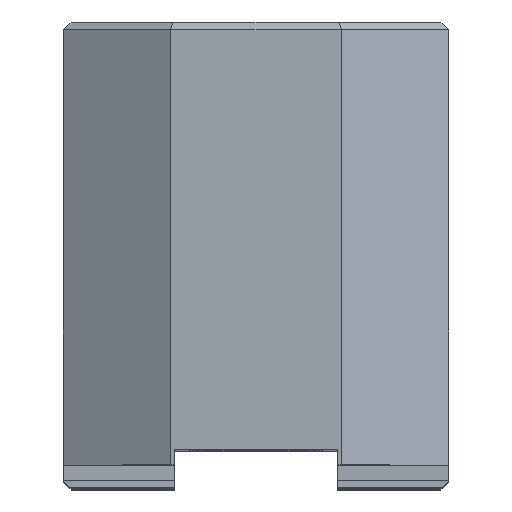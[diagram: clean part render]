
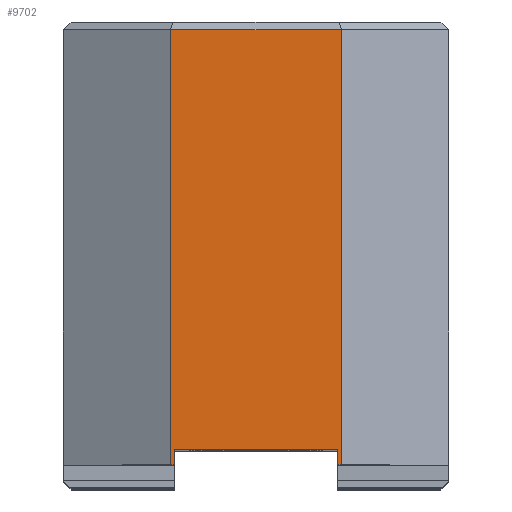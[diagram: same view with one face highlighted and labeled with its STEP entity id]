
A CAD part, top view. The second image highlights one B-rep face of the part: STEP entity #9702.
In plain terms, the highlighted planar face has unit normal (0, 0, 1).
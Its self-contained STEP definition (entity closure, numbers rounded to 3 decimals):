
#46=FACE_OUTER_BOUND('',#618,.T.);
#618=EDGE_LOOP('',(#6588,#6589,#6590,#6591,#6592,#6593,#6594,#6595));
#1196=LINE('',#13472,#2606);
#1201=LINE('',#13483,#2611);
#1207=LINE('',#13495,#2617);
#1413=LINE('',#13906,#2823);
#1485=LINE('',#14051,#2895);
#1486=LINE('',#14052,#2896);
#1487=LINE('',#14054,#2897);
#1488=LINE('',#14055,#2898);
#2606=VECTOR('',#10887,10.);
#2611=VECTOR('',#10894,10.);
#2617=VECTOR('',#10904,10.);
#2823=VECTOR('',#11112,10.);
#2895=VECTOR('',#11188,10.);
#2896=VECTOR('',#11189,10.);
#2897=VECTOR('',#11190,10.);
#2898=VECTOR('',#11191,10.);
#4015=VERTEX_POINT('',#13469);
#4016=VERTEX_POINT('',#13471);
#4020=VERTEX_POINT('',#13480);
#4021=VERTEX_POINT('',#13482);
#4025=VERTEX_POINT('',#13494);
#4229=VERTEX_POINT('',#13904);
#4300=VERTEX_POINT('',#14050);
#4301=VERTEX_POINT('',#14053);
#4870=EDGE_CURVE('',#4016,#4015,#1196,.T.);
#4875=EDGE_CURVE('',#4021,#4020,#1201,.T.);
#4881=EDGE_CURVE('',#4021,#4025,#1207,.T.);
#5087=EDGE_CURVE('',#4020,#4229,#1413,.T.);
#5159=EDGE_CURVE('',#4229,#4300,#1485,.T.);
#5160=EDGE_CURVE('',#4300,#4016,#1486,.T.);
#5161=EDGE_CURVE('',#4015,#4301,#1487,.T.);
#5162=EDGE_CURVE('',#4025,#4301,#1488,.T.);
#6588=ORIENTED_EDGE('',*,*,#4875,.T.);
#6589=ORIENTED_EDGE('',*,*,#5087,.T.);
#6590=ORIENTED_EDGE('',*,*,#5159,.T.);
#6591=ORIENTED_EDGE('',*,*,#5160,.T.);
#6592=ORIENTED_EDGE('',*,*,#4870,.T.);
#6593=ORIENTED_EDGE('',*,*,#5161,.T.);
#6594=ORIENTED_EDGE('',*,*,#5162,.F.);
#6595=ORIENTED_EDGE('',*,*,#4881,.F.);
#9136=PLANE('',#10297);
#9702=ADVANCED_FACE('',(#46),#9136,.T.);
#10297=AXIS2_PLACEMENT_3D('',#14049,#11186,#11187);
#10887=DIRECTION('',(1.,0.,0.));
#10894=DIRECTION('',(1.,0.,0.));
#10904=DIRECTION('',(0.,1.,0.));
#11112=DIRECTION('',(0.,1.,0.));
#11186=DIRECTION('center_axis',(0.,0.,1.));
#11187=DIRECTION('ref_axis',(1.,0.,0.));
#11188=DIRECTION('',(1.,0.,0.));
#11189=DIRECTION('',(0.,-1.,0.));
#11190=DIRECTION('',(0.,1.,0.));
#11191=DIRECTION('',(1.,0.,0.));
#13469=CARTESIAN_POINT('',(11.,3.,65.));
#13471=CARTESIAN_POINT('',(10.5,3.,65.));
#13472=CARTESIAN_POINT('',(-7.125,3.,65.));
#13480=CARTESIAN_POINT('',(-10.5,3.,65.));
#13482=CARTESIAN_POINT('',(-11.,3.,65.));
#13483=CARTESIAN_POINT('',(-7.125,3.,65.));
#13494=CARTESIAN_POINT('',(-11.,59.,65.));
#13495=CARTESIAN_POINT('',(-11.,0.,65.));
#13904=CARTESIAN_POINT('',(-10.5,5.,65.));
#13906=CARTESIAN_POINT('',(-10.5,0.,65.));
#14049=CARTESIAN_POINT('Origin',(-11.,0.,65.));
#14050=CARTESIAN_POINT('',(10.5,5.,65.));
#14051=CARTESIAN_POINT('',(-10.75,5.,65.));
#14052=CARTESIAN_POINT('',(10.5,2.5,65.));
#14053=CARTESIAN_POINT('',(11.,59.,65.));
#14054=CARTESIAN_POINT('',(11.,0.,65.));
#14055=CARTESIAN_POINT('',(-5.5,59.,65.));
